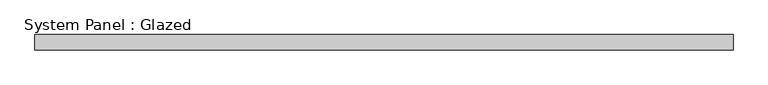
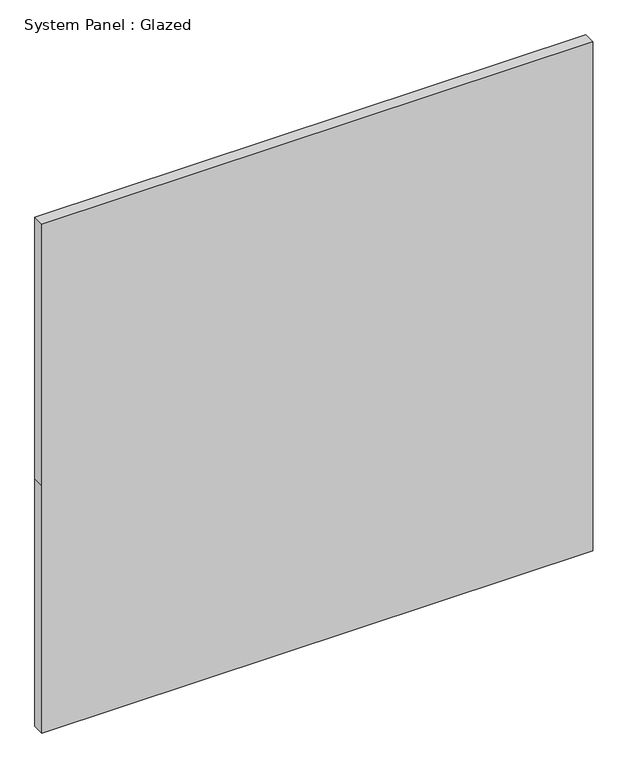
"""IFC4 building model written with IfcOpenShell, lengths in millimetres: plate geometry, System Panel : Glazed."""

from ifc_helpers import new_model, si_unit, frame, origin, place, context, project, spatial, polyline, outline, extrude, source, transform, mapped, element, save


def system_panel_glazed_fd82c8fe(model_context):
    return source(origin(), model_context, "Body", "SweptSolid", [
        extrude(outline(polyline([(0.0, -575.3099999), (0.0, 575.3099999), (546.1, 575.3099999), (1123.95, 575.3099999), (1123.95, -575.3099999), (546.1, -575.3099999), (0.0, -575.3099999)])), frame((0.0, 19.05, 0.0), z_axis=(0.0, 1.0, 0.0), x_axis=(0.0, 0.0, 1.0)), (0.0, 0.0, 1.0), 25.4),
    ])


if __name__ == "__main__":
    model = new_model("IFC4")
    model_context = context("Model", 3, world=origin())
    ifc_project = project(units=[si_unit("LENGTHUNIT", "METRE", prefix="MILLI")], contexts=[model_context])
    site = spatial("IfcSite", under=ifc_project)
    building = spatial("IfcBuilding", under=site)
    placement = place(None, origin())
    system_panel_glazed_shape = system_panel_glazed_fd82c8fe(model_context)
    element("IfcPlate", 1, ObjectType="System Panel : Glazed", at=placement, inside=building, context=model_context, shape_type="MappedRepresentation", body=[
        mapped(system_panel_glazed_shape, transform((0.0, 0.0, 0.0), x_axis=(1.0, 0.0, 0.0), y_axis=(0.0, 1.0, 0.0), z_axis=(0.0, 0.0, 1.0))),
    ])
    save(model, "model.ifc")
